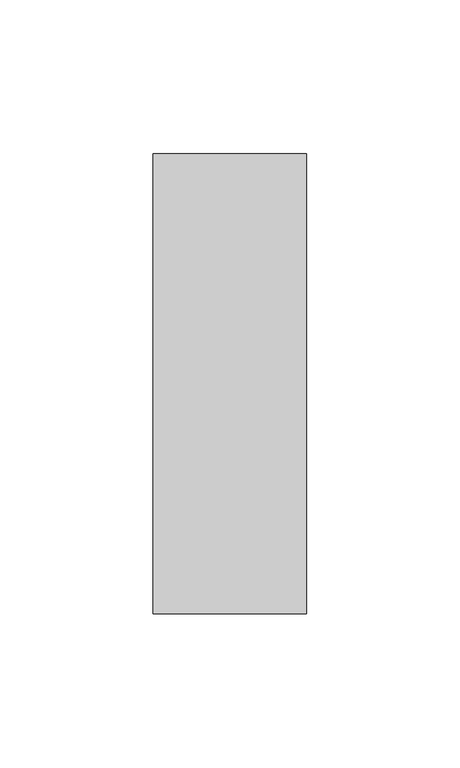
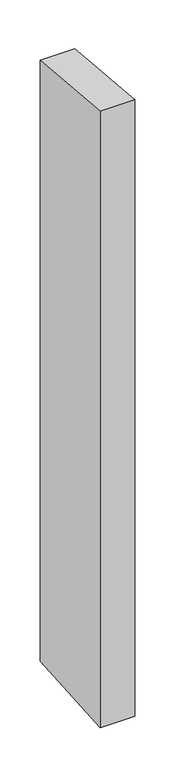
"""IFC4 building model written with IfcOpenShell, lengths in millimetres: member geometry, Прямоугольный импост : 50 x 150 мм."""

from ifc_helpers import new_model, si_unit, origin, place, context, project, spatial, faceted_brep, source, transform, mapped, element, save


def member_87c37530(model_context):
    return source(origin(), model_context, "Body", "Brep", [
        faceted_brep([(-25.0, 75.0, -6.6170527), (25.0, 75.0, -6.3367393), (25.0, 75.0, -923.235879), (-25.0, 75.0, -922.8741903), (-25.0, -75.0, 6.3367393), (-25.0, -75.0, -933.0921541), (25.0, -75.0, 6.6170527), (25.0, -75.0, -933.4538428)], [[[0, 1, 2, 3]], [[4, 0, 3, 5]], [[6, 4, 5, 7]], [[1, 6, 7, 2]], [[1, 0, 4, 6]], [[2, 7, 5, 3]]]),
    ])


if __name__ == "__main__":
    model = new_model("IFC4")
    model_context = context("Model", 3, world=origin())
    ifc_project = project(units=[si_unit("LENGTHUNIT", "METRE", prefix="MILLI")], contexts=[model_context])
    site = spatial("IfcSite", under=ifc_project)
    building = spatial("IfcBuilding", under=site)
    placement = place(None, origin())
    member_shape = member_87c37530(model_context)
    element("IfcMember", 1, ObjectType="Прямоугольный импост : 50 x 150 мм", at=placement, inside=building, context=model_context, shape_type="MappedRepresentation", body=[
        mapped(member_shape, transform((0.0, 0.0, 0.0), x_axis=(1.0, 0.0, 0.0), y_axis=(0.0, 1.0, 0.0), z_axis=(0.0, 0.0, 1.0))),
    ])
    save(model, "model.ifc")
